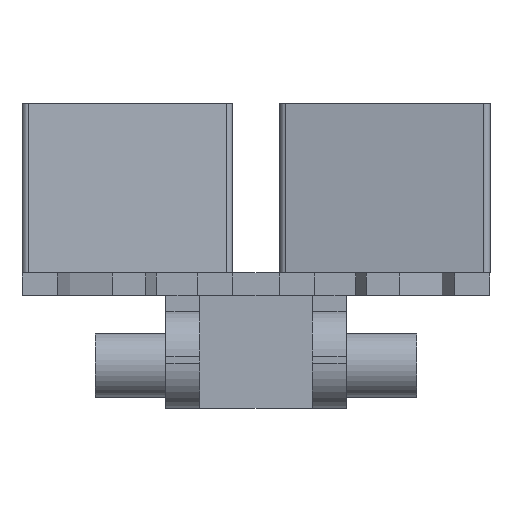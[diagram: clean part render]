
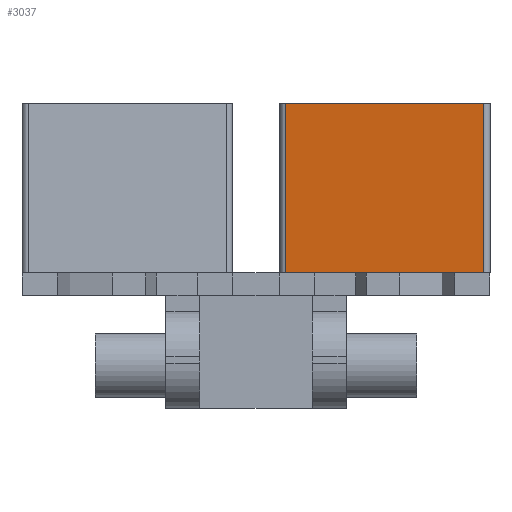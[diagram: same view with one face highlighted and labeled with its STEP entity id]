
A CAD part, front view. The second image highlights one B-rep face of the part: STEP entity #3037.
In plain terms, the highlighted planar face has unit normal (-0.13, -0.992, 0).
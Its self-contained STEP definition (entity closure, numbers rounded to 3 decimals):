
#10 = VERTEX_POINT ( 'NONE', #1922 ) ;
#89 = EDGE_CURVE ( 'NONE', #523, #1855, #698, .T. ) ;
#299 = CARTESIAN_POINT ( 'NONE',  ( 194.956, 88.764, 62.1 ) ) ;
#413 = DIRECTION ( 'NONE',  ( 0.13, 0.991, 0. ) ) ;
#523 = VERTEX_POINT ( 'NONE', #2980 ) ;
#698 = LINE ( 'NONE', #3215, #1004 ) ;
#929 = EDGE_LOOP ( 'NONE', ( #1127, #2167, #1935, #3303 ) ) ;
#1004 = VECTOR ( 'NONE', #1374, 1000. ) ;
#1127 = ORIENTED_EDGE ( 'NONE', *, *, #2655, .T. ) ;
#1236 = DIRECTION ( 'NONE',  ( 0.991, -0.13, 0. ) ) ;
#1276 = EDGE_CURVE ( 'NONE', #10, #1321, #3996, .T. ) ;
#1321 = VERTEX_POINT ( 'NONE', #1870 ) ;
#1338 = VECTOR ( 'NONE', #2115, 1000. ) ;
#1374 = DIRECTION ( 'NONE',  ( 0., 0., 1. ) ) ;
#1405 = CARTESIAN_POINT ( 'NONE',  ( 231.2, 83.996, 32.1 ) ) ;
#1440 = LINE ( 'NONE', #1405, #3889 ) ;
#1527 = DIRECTION ( 'NONE',  ( 0., 0., -1. ) ) ;
#1584 = CARTESIAN_POINT ( 'NONE',  ( 230.07, 84.144, 62.1 ) ) ;
#1623 = FACE_OUTER_BOUND ( 'NONE', #929, .T. ) ;
#1657 = PLANE ( 'NONE',  #3079 ) ;
#1855 = VERTEX_POINT ( 'NONE', #1584 ) ;
#1870 = CARTESIAN_POINT ( 'NONE',  ( 194.956, 88.764, 32.1 ) ) ;
#1922 = CARTESIAN_POINT ( 'NONE',  ( 194.956, 88.764, 62.1 ) ) ;
#1935 = ORIENTED_EDGE ( 'NONE', *, *, #2506, .F. ) ;
#2115 = DIRECTION ( 'NONE',  ( 0.991, -0.13, 0. ) ) ;
#2167 = ORIENTED_EDGE ( 'NONE', *, *, #89, .T. ) ;
#2254 = CARTESIAN_POINT ( 'NONE',  ( 231.2, 83.996, 62.1 ) ) ;
#2506 = EDGE_CURVE ( 'NONE', #10, #1855, #2628, .T. ) ;
#2628 = LINE ( 'NONE', #2714, #1338 ) ;
#2655 = EDGE_CURVE ( 'NONE', #1321, #523, #1440, .T. ) ;
#2714 = CARTESIAN_POINT ( 'NONE',  ( 231.2, 83.996, 62.1 ) ) ;
#2900 = DIRECTION ( 'NONE',  ( -0.991, 0.13, 0. ) ) ;
#2980 = CARTESIAN_POINT ( 'NONE',  ( 230.07, 84.144, 32.1 ) ) ;
#3037 = ADVANCED_FACE ( 'NONE', ( #1623 ), #1657, .F. ) ;
#3079 = AXIS2_PLACEMENT_3D ( 'NONE', #2254, #413, #2900 ) ;
#3215 = CARTESIAN_POINT ( 'NONE',  ( 230.07, 84.144, 62.1 ) ) ;
#3303 = ORIENTED_EDGE ( 'NONE', *, *, #1276, .T. ) ;
#3548 = VECTOR ( 'NONE', #1527, 1000. ) ;
#3889 = VECTOR ( 'NONE', #1236, 1000. ) ;
#3996 = LINE ( 'NONE', #299, #3548 ) ;
